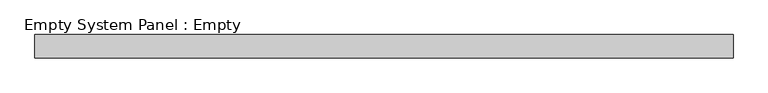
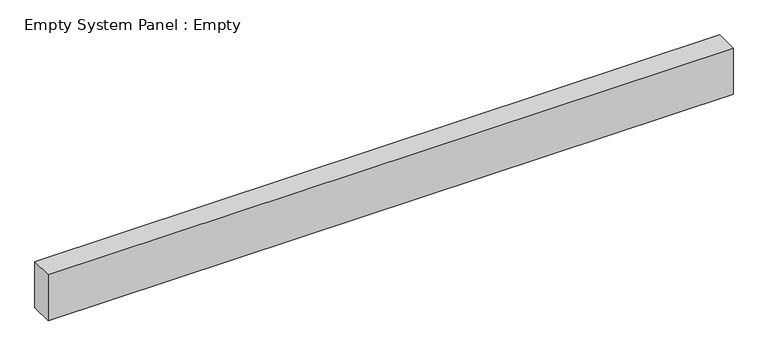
"""IFC4 building model written with IfcOpenShell, lengths in millimetres: plate geometry, Empty System Panel : Empty."""

from ifc_helpers import new_model, si_unit, origin, origin_with_axes, place, context, project, spatial, polyline, outline, extrude, source, transform, mapped, element, save


def empty_system_panel_empty_21c48a04(model_context):
    return source(origin(), model_context, "Body", "SweptSolid", [
        extrude(outline(polyline([(1500.0, -50.0), (-1500.0, -50.0), (-1500.0, 50.0), (1500.0, 50.0), (1500.0, -50.0)])), origin_with_axes(), (0.0, 0.0, 1.0), 213.0),
    ])


if __name__ == "__main__":
    model = new_model("IFC4")
    model_context = context("Model", 3, world=origin())
    ifc_project = project(units=[si_unit("LENGTHUNIT", "METRE", prefix="MILLI")], contexts=[model_context])
    site = spatial("IfcSite", under=ifc_project)
    building = spatial("IfcBuilding", under=site)
    placement = place(None, origin())
    empty_system_panel_empty_shape = empty_system_panel_empty_21c48a04(model_context)
    element("IfcPlate", 1, ObjectType="Empty System Panel : Empty", at=placement, inside=building, context=model_context, shape_type="MappedRepresentation", body=[
        mapped(empty_system_panel_empty_shape, transform((0.0, 0.0, 0.0), x_axis=(1.0, 0.0, 0.0), y_axis=(0.0, 1.0, 0.0), z_axis=(0.0, 0.0, 1.0))),
    ])
    save(model, "model.ifc")
